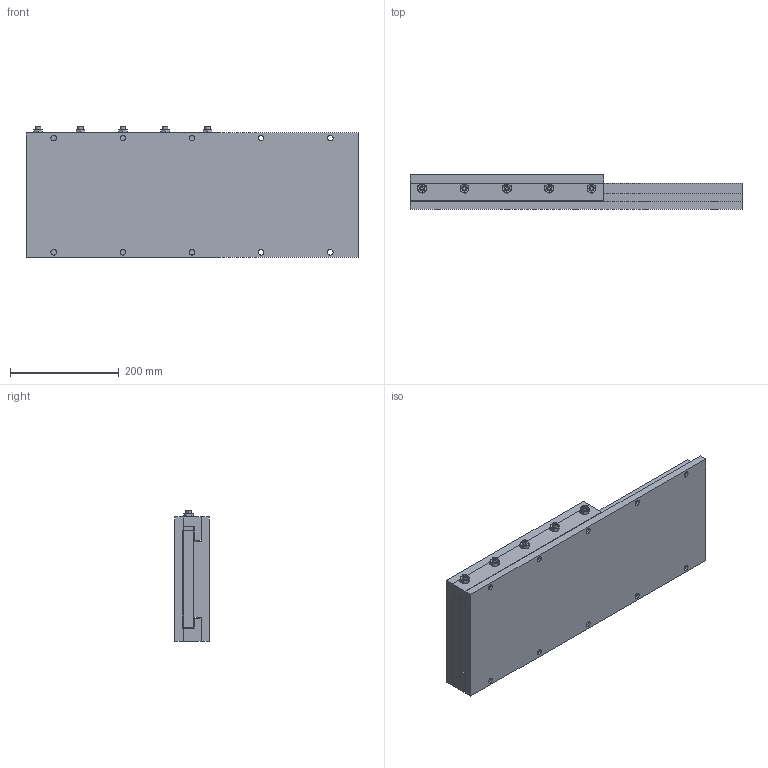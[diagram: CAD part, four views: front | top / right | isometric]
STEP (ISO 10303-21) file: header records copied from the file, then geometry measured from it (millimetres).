
FILE_DESCRIPTION (( 'STEP AP214' ), '1' );
FILE_NAME ('SW09-SL14-BL24.STEP', '2010-10-04T18:01:50', ( ' ' ), ( '' ), 'SwSTEP 2.0', 'SolidWorks 2010', '' );
FILE_SCHEMA (( 'AUTOMOTIVE_DESIGN' ));
Length unit declared in the file: inch
Products named in the file (11): Gen2 BASE_09x24 BASE; Gen2 Baseplate_09x24 BASE; Gen2 Hardplate_09x24 HPLATE; _SSCUPSOC_SSCUPSKT 0.375-24x1.25-HX-N; _MSHXNUT_MSHXNUT 0.375-24-D-N; Gen2 SADDLE_09x14 SADDLE; Gen2 Top plate_09x14 TPLATE; Gen2 Bar_09x14 BAR; Gen2 Adj Gib_09x14 ADJ GIB; Gen2 Gib_09x14 GIB; SW09-SL14-BL24
Assembly tree (18 placements, depth 3):
  SW09-SL14-BL24
    Gen2 SADDLE_09x14 SADDLE
      _SSCUPSOC_SSCUPSKT 0.375-24x1.25-HX-N  x5
      _MSHXNUT_MSHXNUT 0.375-24-D-N  x5
      Gen2 Adj Gib_09x14 ADJ GIB
      Gen2 Bar_09x14 BAR
      Gen2 Top plate_09x14 TPLATE
      Gen2 Gib_09x14 GIB
    Gen2 BASE_09x24 BASE
      Gen2 Hardplate_09x24 HPLATE
      Gen2 Baseplate_09x24 BASE
Bounding box: 609.6 x 63.5 x 240.51 mm (x, y, z)
Volume: 7279029.8 mm3; surface area: 1088153.1 mm2
Topology: 21 solids, 21 shells, 385 faces, 864 edges, 531 vertices
Faces by surface type: plane 173, cone 110, cylinder 102
Entity records: 6963 total; most frequent: CARTESIAN_POINT 1157, DIRECTION 1092, ORIENTED_EDGE 956, EDGE_CURVE 478, AXIS2_PLACEMENT_3D 406, VERTEX_POINT 311, LINE 280, VECTOR 280
